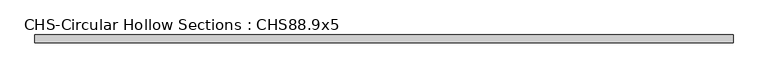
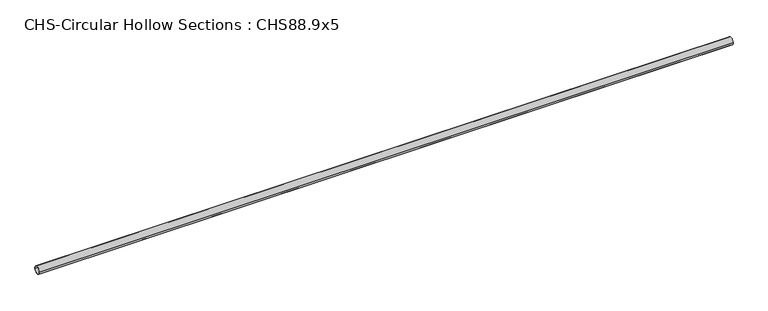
"""IFC4 building model written with IfcOpenShell, lengths in millimetres: beam geometry, CHS-Circular Hollow Sections : CHS88.9x5."""

from ifc_helpers import new_model, si_unit, point, frame, origin, origin_2d, place, context, project, spatial, circle_curve, trimmed, segment, composite_curve, outline, extrude, source, transform, mapped, element, save


def chs_circular_hollow_sections_chs88_9x5_23af39ed(model_context):
    return source(origin(), model_context, "Body", "SweptSolid", [
        extrude(outline(composite_curve([segment(trimmed(circle_curve(origin_2d(), 44.45), [point((-44.45, 0.0))], [point((44.45, 0.0))], False, "CARTESIAN"), True, "CONTINUOUS"), segment(trimmed(circle_curve(origin_2d(), 44.45), [point((44.45, 0.0))], [point((-44.45, 0.0))], False, "CARTESIAN"), True, "CONTINUOUS")], self_intersect=False), holes=[composite_curve([segment(trimmed(circle_curve(origin_2d(), 39.45), [point((39.45, 0.0))], [point((-39.45, 0.0))], True, "CARTESIAN"), True, "CONTINUOUS"), segment(trimmed(circle_curve(origin_2d(), 39.45), [point((-39.45, 0.0))], [point((39.45, 0.0))], True, "CARTESIAN"), True, "CONTINUOUS")], self_intersect=False)]), frame((-4247.0, 0.0, 0.0), z_axis=(1.0, 0.0, 0.0), x_axis=(0.0, 1.0, 0.0)), (0.0, 0.0, 1.0), 8023.0),
    ])


if __name__ == "__main__":
    model = new_model("IFC4")
    model_context = context("Model", 3, world=origin())
    ifc_project = project(units=[si_unit("LENGTHUNIT", "METRE", prefix="MILLI")], contexts=[model_context])
    site = spatial("IfcSite", under=ifc_project)
    building = spatial("IfcBuilding", under=site)
    placement = place(None, origin())
    chs_circular_hollow_sections_chs88_9x5_shape = chs_circular_hollow_sections_chs88_9x5_23af39ed(model_context)
    element("IfcBeam", 1, ObjectType="CHS-Circular Hollow Sections : CHS88.9x5", at=placement, inside=building, context=model_context, shape_type="MappedRepresentation", body=[
        mapped(chs_circular_hollow_sections_chs88_9x5_shape, transform((0.0, 0.0, 0.0), x_axis=(1.0, 0.0, 0.0), y_axis=(0.0, 1.0, 0.0), z_axis=(0.0, 0.0, 1.0))),
    ])
    save(model, "model.ifc")
